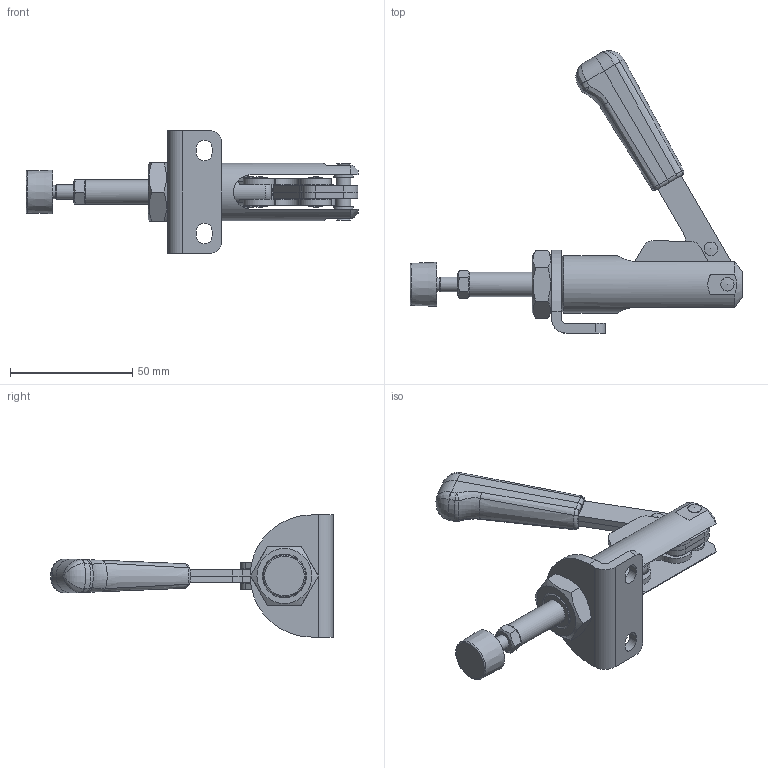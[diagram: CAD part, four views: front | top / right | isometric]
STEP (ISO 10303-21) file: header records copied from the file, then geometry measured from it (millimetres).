
FILE_DESCRIPTION(/* description */ (''),/* implementation_level */ '2;1');
FILE_NAME(/* name */ '/Users/eric/Desktop/Abco 2032 Push:Poussée.stp',/* time_stamp */ '2014-08-15T01:14:07+10:00',/* author */ (''),/* organization */ (''),/* preprocessor_version */ 'ST-DEVELOPER v14.6',/* originating_system */ '',/* authorisation */ '');
FILE_SCHEMA (('AUTOMOTIVE_DESIGN { 1 2 10303 214 1 1 1 1 }'));
Length unit declared in the file: centimetre
Products named in the file (1): 1234-K789
Bounding box: 135.97 x 115.69 x 50 mm (x, y, z)
Volume: 54229 mm3; surface area: 38499.2 mm2
Topology: 25 solids, 25 shells, 301 faces, 703 edges, 445 vertices
Faces by surface type: plane 125, cylinder 94, cone 41, bspline 24, sphere 9, torus 8
Full cylindrical faces by diameter (mm): 4 x3, 4.917 x2, 5 x19, 5.459 x1, 6 x3, 7 x9, 8 x2, 8.7 x2, 10 x4, 14.376 x1, 16 x1, 16.2 x1, 23.5 x1
Entity records: 8693 total; most frequent: CARTESIAN_POINT 2400, DIRECTION 1286, ORIENTED_EDGE 1170, EDGE_CURVE 585, AXIS2_PLACEMENT_3D 530, EDGE_LOOP 441, VERTEX_POINT 418, ADVANCED_FACE 301
